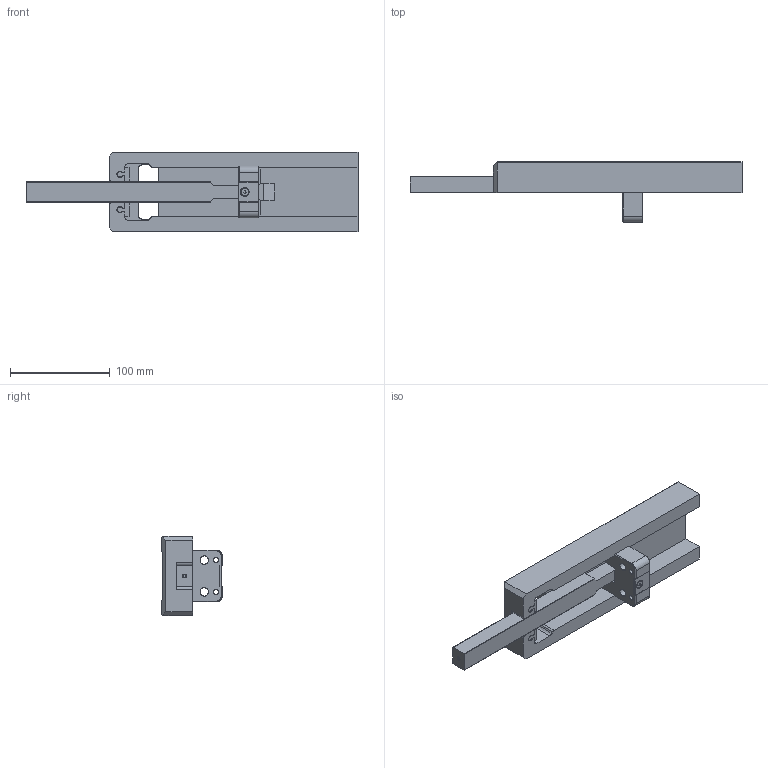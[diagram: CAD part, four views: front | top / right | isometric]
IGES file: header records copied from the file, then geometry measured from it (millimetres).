
Start section: SolidWorks IGES file using analytic representation for surfaces
Global section: file name: G:\CAD\Hakdrag\SA\SA-110\SA-110-250-25.igs; native system: SolidWorks 2015; preprocessor: SolidWorks 2015; author: ChBe; date: 150616.075812; units: millimetre
Bounding box: 333.64 x 60.6 x 80 mm (x, y, z)
Surface area: 96559.1 mm2 (no closed solid volume)
Topology: 0 solids, 0 shells, 156 faces, 1828 edges, 1828 vertices
Faces by surface type: bspline 99, revolution 57
